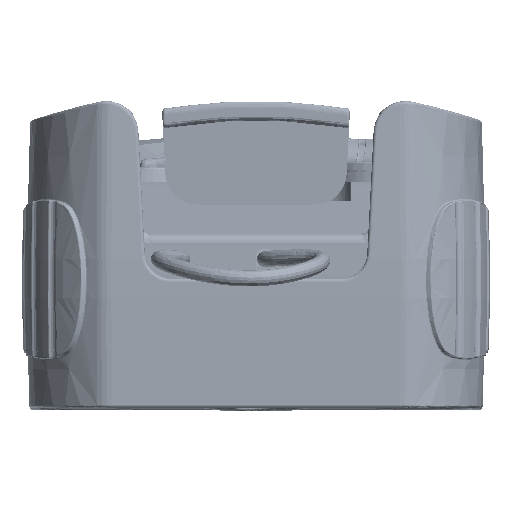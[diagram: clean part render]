
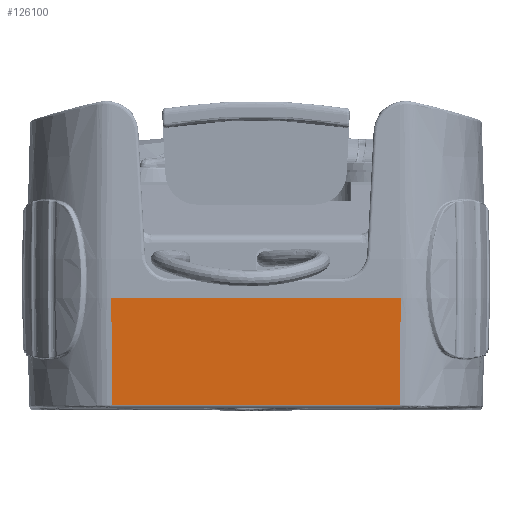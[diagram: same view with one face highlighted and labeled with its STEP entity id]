
A CAD part, top view. The second image highlights one B-rep face of the part: STEP entity #126100.
In plain terms, the highlighted planar face has unit normal (0, -0.026, 1).
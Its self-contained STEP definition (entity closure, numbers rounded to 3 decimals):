
#21424 = EDGE_CURVE ( 'NONE', #251020, #145740, #319444, .T. ) ;
#23094 = CARTESIAN_POINT ( 'NONE',  ( 22.308, -17.009, 86.712 ) ) ;
#34156 = DIRECTION ( 'NONE',  ( -1., 0., 0. ) ) ;
#43332 = DIRECTION ( 'NONE',  ( -1., 0., 0. ) ) ;
#50137 = LINE ( 'NONE', #315134, #78556 ) ;
#68652 = ORIENTED_EDGE ( 'NONE', *, *, #121233, .F. ) ;
#78556 = VECTOR ( 'NONE', #43332, 1000. ) ;
#121233 = EDGE_CURVE ( 'NONE', #234300, #142695, #50137, .T. ) ;
#126100 = ADVANCED_FACE ( 'NONE', ( #305440 ), #243540, .T. ) ;
#126402 = EDGE_LOOP ( 'NONE', ( #289166, #68652, #215045, #287224 ) ) ;
#142695 = VERTEX_POINT ( 'NONE', #279712 ) ;
#145740 = VERTEX_POINT ( 'NONE', #157771 ) ;
#157771 = CARTESIAN_POINT ( 'NONE',  ( -22.378, -6., 87. ) ) ;
#157992 = B_SPLINE_CURVE_WITH_KNOTS ( 'NONE', 3,
 ( #326785, #359999, #23094, #264514 ),
 .UNSPECIFIED., .F., .F.,
 ( 4, 4 ),
 ( 0., 1. ),
 .UNSPECIFIED. ) ;
#166841 = AXIS2_PLACEMENT_3D ( 'NONE', #281919, #372182, #253988 ) ;
#212988 = CARTESIAN_POINT ( 'NONE',  ( -22.343, -11.504, 86.856 ) ) ;
#215045 = ORIENTED_EDGE ( 'NONE', *, *, #232281, .F. ) ;
#232281 = EDGE_CURVE ( 'NONE', #251020, #234300, #157992, .T. ) ;
#234300 = VERTEX_POINT ( 'NONE', #317415 ) ;
#243540 = PLANE ( 'NONE',  #166841 ) ;
#251020 = VERTEX_POINT ( 'NONE', #291769 ) ;
#253988 = DIRECTION ( 'NONE',  ( 0., -1., -0.026 ) ) ;
#264514 = CARTESIAN_POINT ( 'NONE',  ( 22.272, -22.513, 86.568 ) ) ;
#276672 = CARTESIAN_POINT ( 'NONE',  ( -22.378, -6., 87. ) ) ;
#279712 = CARTESIAN_POINT ( 'NONE',  ( -22.272, -22.513, 86.568 ) ) ;
#281919 = CARTESIAN_POINT ( 'NONE',  ( -23.5, -6., 87. ) ) ;
#287224 = ORIENTED_EDGE ( 'NONE', *, *, #21424, .T. ) ;
#289166 = ORIENTED_EDGE ( 'NONE', *, *, #388625, .T. ) ;
#291769 = CARTESIAN_POINT ( 'NONE',  ( 22.378, -6., 87. ) ) ;
#305440 = FACE_OUTER_BOUND ( 'NONE', #126402, .T. ) ;
#309956 = VECTOR ( 'NONE', #34156, 1000. ) ;
#315134 = CARTESIAN_POINT ( 'NONE',  ( -22.779, -22.513, 86.568 ) ) ;
#317415 = CARTESIAN_POINT ( 'NONE',  ( 22.272, -22.513, 86.568 ) ) ;
#319444 = LINE ( 'NONE', #340523, #309956 ) ;
#326785 = CARTESIAN_POINT ( 'NONE',  ( 22.378, -6., 87. ) ) ;
#335108 = CARTESIAN_POINT ( 'NONE',  ( -22.308, -17.009, 86.712 ) ) ;
#336402 = CARTESIAN_POINT ( 'NONE',  ( -22.272, -22.513, 86.568 ) ) ;
#340523 = CARTESIAN_POINT ( 'NONE',  ( -23.5, -6., 87. ) ) ;
#354073 = B_SPLINE_CURVE_WITH_KNOTS ( 'NONE', 3,
 ( #276672, #212988, #335108, #336402 ),
 .UNSPECIFIED., .F., .F.,
 ( 4, 4 ),
 ( 0., 1. ),
 .UNSPECIFIED. ) ;
#359999 = CARTESIAN_POINT ( 'NONE',  ( 22.343, -11.504, 86.856 ) ) ;
#372182 = DIRECTION ( 'NONE',  ( 0., -0.026, 1. ) ) ;
#388625 = EDGE_CURVE ( 'NONE', #145740, #142695, #354073, .T. ) ;
